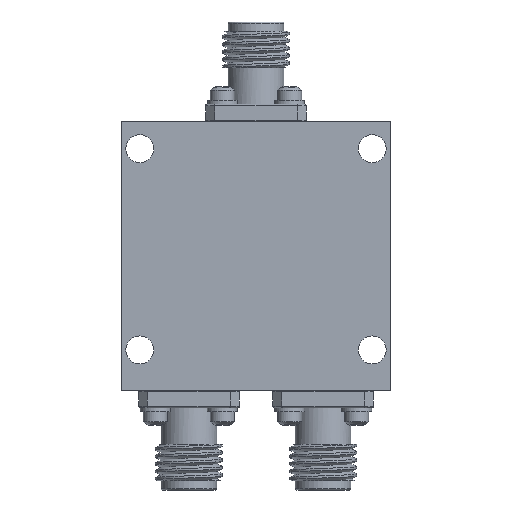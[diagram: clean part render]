
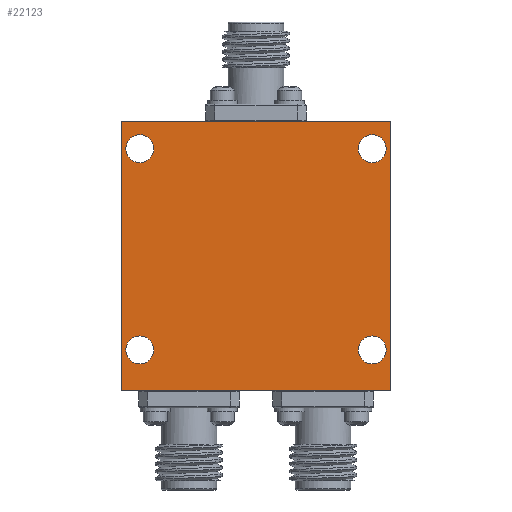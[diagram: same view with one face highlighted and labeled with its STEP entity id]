
A CAD part, front view. The second image highlights one B-rep face of the part: STEP entity #22123.
In plain terms, the highlighted planar face has unit normal (0, -1, 0).
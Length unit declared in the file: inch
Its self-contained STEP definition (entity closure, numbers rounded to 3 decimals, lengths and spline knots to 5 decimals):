
#148 = CARTESIAN_POINT ( 'NONE',  ( 0.433, -0.4, 0.452 ) ) ;
#260 = DIRECTION ( 'NONE',  ( 0., 1., 0. ) ) ;
#660 = EDGE_LOOP ( 'NONE', ( #15347 ) ) ;
#910 = DIRECTION ( 'NONE',  ( 0., 1., 0. ) ) ;
#1112 = AXIS2_PLACEMENT_3D ( 'NONE', #21251, #260, #50837 ) ;
#2574 = CARTESIAN_POINT ( 'NONE',  ( 0.5, -0.4, -0.5 ) ) ;
#2629 = CARTESIAN_POINT ( 'NONE',  ( -0.5, -0.4, -0.5 ) ) ;
#3090 = CARTESIAN_POINT ( 'NONE',  ( 0.433, -0.4, 0.4 ) ) ;
#3123 = VERTEX_POINT ( 'NONE', #45137 ) ;
#4041 = CARTESIAN_POINT ( 'NONE',  ( 0.5, -0.4, -0.5 ) ) ;
#4315 = VERTEX_POINT ( 'NONE', #4920 ) ;
#4562 = VERTEX_POINT ( 'NONE', #17590 ) ;
#4920 = CARTESIAN_POINT ( 'NONE',  ( -0.5, -0.4, -0.5 ) ) ;
#5543 = CIRCLE ( 'NONE', #1112, 0.052 ) ;
#5811 = ORIENTED_EDGE ( 'NONE', *, *, #50692, .F. ) ;
#7001 = VERTEX_POINT ( 'NONE', #4041 ) ;
#7903 = AXIS2_PLACEMENT_3D ( 'NONE', #30498, #25506, #42377 ) ;
#8178 = FACE_BOUND ( 'NONE', #660, .T. ) ;
#8517 = CARTESIAN_POINT ( 'NONE',  ( -0.5, -0.4, 0.5 ) ) ;
#8851 = AXIS2_PLACEMENT_3D ( 'NONE', #18873, #910, #22170 ) ;
#10196 = VECTOR ( 'NONE', #50335, 39.37008 ) ;
#11474 = VERTEX_POINT ( 'NONE', #29904 ) ;
#11714 = DIRECTION ( 'NONE',  ( 0., 1., 0. ) ) ;
#11766 = ORIENTED_EDGE ( 'NONE', *, *, #33326, .T. ) ;
#12929 = ORIENTED_EDGE ( 'NONE', *, *, #14883, .F. ) ;
#13929 = VERTEX_POINT ( 'NONE', #21333 ) ;
#14883 = EDGE_CURVE ( 'NONE', #4315, #32310, #37919, .T. ) ;
#15347 = ORIENTED_EDGE ( 'NONE', *, *, #24242, .T. ) ;
#15865 = EDGE_CURVE ( 'NONE', #32310, #13929, #24589, .T. ) ;
#16764 = FACE_BOUND ( 'NONE', #53323, .T. ) ;
#17464 = EDGE_CURVE ( 'NONE', #4562, #4562, #45339, .T. ) ;
#17590 = CARTESIAN_POINT ( 'NONE',  ( -0.433, -0.4, 0.452 ) ) ;
#18873 = CARTESIAN_POINT ( 'NONE',  ( -0.433, -0.4, -0.35 ) ) ;
#18986 = VECTOR ( 'NONE', #38457, 39.37008 ) ;
#19146 = CIRCLE ( 'NONE', #20014, 0.052 ) ;
#19190 = DIRECTION ( 'NONE',  ( 0., 1., 0. ) ) ;
#19589 = ORIENTED_EDGE ( 'NONE', *, *, #15865, .F. ) ;
#20014 = AXIS2_PLACEMENT_3D ( 'NONE', #3090, #11714, #40671 ) ;
#20280 = CIRCLE ( 'NONE', #8851, 0.052 ) ;
#21251 = CARTESIAN_POINT ( 'NONE',  ( 0.433, -0.4, -0.35 ) ) ;
#21333 = CARTESIAN_POINT ( 'NONE',  ( 0.5, -0.4, 0.5 ) ) ;
#22123 = ADVANCED_FACE ( 'NONE', ( #28877, #8178, #54540, #16764, #23879 ), #49359, .F. ) ;
#22170 = DIRECTION ( 'NONE',  ( 0., 0., 1. ) ) ;
#22875 = CARTESIAN_POINT ( 'NONE',  ( -0.5, -0.4, -0.5 ) ) ;
#23879 = FACE_OUTER_BOUND ( 'NONE', #36630, .T. ) ;
#24242 = EDGE_CURVE ( 'NONE', #37998, #37998, #19146, .T. ) ;
#24589 = LINE ( 'NONE', #33473, #10196 ) ;
#25506 = DIRECTION ( 'NONE',  ( 0., 1., 0. ) ) ;
#25946 = ORIENTED_EDGE ( 'NONE', *, *, #37736, .T. ) ;
#26973 = EDGE_CURVE ( 'NONE', #13929, #7001, #27714, .T. ) ;
#27222 = DIRECTION ( 'NONE',  ( -1., 0., 0. ) ) ;
#27714 = LINE ( 'NONE', #2574, #37931 ) ;
#28456 = ORIENTED_EDGE ( 'NONE', *, *, #26973, .F. ) ;
#28877 = FACE_BOUND ( 'NONE', #40190, .T. ) ;
#29904 = CARTESIAN_POINT ( 'NONE',  ( -0.433, -0.4, -0.298 ) ) ;
#30498 = CARTESIAN_POINT ( 'NONE',  ( 0., -0.4, 0. ) ) ;
#32310 = VERTEX_POINT ( 'NONE', #8517 ) ;
#33326 = EDGE_CURVE ( 'NONE', #3123, #3123, #5543, .T. ) ;
#33473 = CARTESIAN_POINT ( 'NONE',  ( -0.5, -0.4, 0.5 ) ) ;
#36359 = LINE ( 'NONE', #2629, #40368 ) ;
#36630 = EDGE_LOOP ( 'NONE', ( #12929, #5811, #28456, #19589 ) ) ;
#37736 = EDGE_CURVE ( 'NONE', #11474, #11474, #20280, .T. ) ;
#37919 = LINE ( 'NONE', #22875, #18986 ) ;
#37931 = VECTOR ( 'NONE', #52602, 39.37008 ) ;
#37998 = VERTEX_POINT ( 'NONE', #148 ) ;
#38457 = DIRECTION ( 'NONE',  ( 0., 0., 1. ) ) ;
#39425 = ORIENTED_EDGE ( 'NONE', *, *, #17464, .T. ) ;
#39894 = DIRECTION ( 'NONE',  ( 0., 0., 1. ) ) ;
#40030 = AXIS2_PLACEMENT_3D ( 'NONE', #44300, #19190, #39894 ) ;
#40190 = EDGE_LOOP ( 'NONE', ( #39425 ) ) ;
#40368 = VECTOR ( 'NONE', #27222, 39.37008 ) ;
#40671 = DIRECTION ( 'NONE',  ( 0., 0., 1. ) ) ;
#42377 = DIRECTION ( 'NONE',  ( 0., 0., 1. ) ) ;
#44300 = CARTESIAN_POINT ( 'NONE',  ( -0.433, -0.4, 0.4 ) ) ;
#45137 = CARTESIAN_POINT ( 'NONE',  ( 0.433, -0.4, -0.298 ) ) ;
#45339 = CIRCLE ( 'NONE', #40030, 0.052 ) ;
#48915 = EDGE_LOOP ( 'NONE', ( #11766 ) ) ;
#49359 = PLANE ( 'NONE',  #7903 ) ;
#50335 = DIRECTION ( 'NONE',  ( 1., 0., 0. ) ) ;
#50692 = EDGE_CURVE ( 'NONE', #7001, #4315, #36359, .T. ) ;
#50837 = DIRECTION ( 'NONE',  ( 0., 0., 1. ) ) ;
#52602 = DIRECTION ( 'NONE',  ( 0., 0., -1. ) ) ;
#53323 = EDGE_LOOP ( 'NONE', ( #25946 ) ) ;
#54540 = FACE_BOUND ( 'NONE', #48915, .T. ) ;
